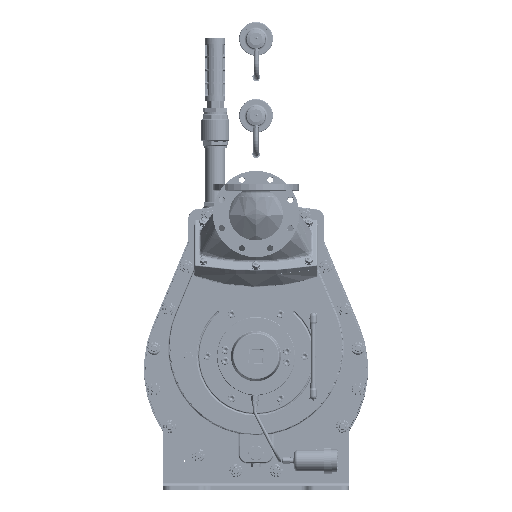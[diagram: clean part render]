
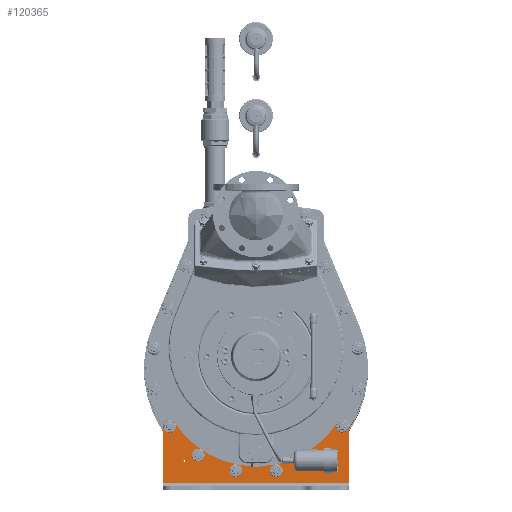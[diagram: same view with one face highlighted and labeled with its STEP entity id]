
A CAD part, top view. The second image highlights one B-rep face of the part: STEP entity #120365.
In plain terms, the highlighted planar face has unit normal (0, 0, 1) as drawn and (1, 0, 0) by its records, which use the part's own axes.
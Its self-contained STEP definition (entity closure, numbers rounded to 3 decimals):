
#13996=FACE_BOUND('',#24638,.T.);
#13997=FACE_BOUND('',#24639,.T.);
#13998=FACE_BOUND('',#24640,.T.);
#13999=FACE_BOUND('',#24641,.T.);
#14000=FACE_BOUND('',#24642,.T.);
#14001=FACE_BOUND('',#24643,.T.);
#14002=FACE_BOUND('',#24644,.T.);
#14003=FACE_BOUND('',#24645,.T.);
#14905=PLANE('',#129188);
#17508=FACE_OUTER_BOUND('',#24637,.T.);
#24637=EDGE_LOOP('',(#82101,#82102,#82103,#82104,#82105,#82106,#82107,#82108,
#82109,#82110));
#24638=EDGE_LOOP('',(#82111));
#24639=EDGE_LOOP('',(#82112));
#24640=EDGE_LOOP('',(#82113));
#24641=EDGE_LOOP('',(#82114));
#24642=EDGE_LOOP('',(#82115));
#24643=EDGE_LOOP('',(#82116));
#24644=EDGE_LOOP('',(#82117));
#24645=EDGE_LOOP('',(#82118));
#32674=LINE('',#167253,#40296);
#32676=LINE('',#167259,#40298);
#32677=LINE('',#167263,#40299);
#32678=LINE('',#167271,#40300);
#32679=LINE('',#167274,#40301);
#40296=VECTOR('',#139338,10.);
#40298=VECTOR('',#139344,10.);
#40299=VECTOR('',#139347,10.);
#40300=VECTOR('',#139354,10.);
#40301=VECTOR('',#139357,10.);
#47920=CIRCLE('',#129189,15.);
#47921=CIRCLE('',#129190,15.);
#47922=CIRCLE('',#129191,231.);
#47923=CIRCLE('',#129192,15.);
#47924=CIRCLE('',#129193,15.);
#47925=CIRCLE('',#129194,2.067);
#47926=CIRCLE('',#129195,2.067);
#47927=CIRCLE('',#129196,9.);
#47928=CIRCLE('',#129197,9.);
#47929=CIRCLE('',#129198,9.);
#47930=CIRCLE('',#129199,9.);
#47931=CIRCLE('',#129200,9.);
#47932=CIRCLE('',#129201,9.);
#52166=VERTEX_POINT('',#167250);
#52167=VERTEX_POINT('',#167252);
#52169=VERTEX_POINT('',#167258);
#52170=VERTEX_POINT('',#167260);
#52171=VERTEX_POINT('',#167262);
#52172=VERTEX_POINT('',#167264);
#52173=VERTEX_POINT('',#167266);
#52174=VERTEX_POINT('',#167268);
#52175=VERTEX_POINT('',#167270);
#52176=VERTEX_POINT('',#167272);
#52177=VERTEX_POINT('',#167275);
#52178=VERTEX_POINT('',#167277);
#52179=VERTEX_POINT('',#167279);
#52180=VERTEX_POINT('',#167281);
#52181=VERTEX_POINT('',#167283);
#52182=VERTEX_POINT('',#167285);
#52183=VERTEX_POINT('',#167287);
#52184=VERTEX_POINT('',#167289);
#63893=EDGE_CURVE('',#52166,#52167,#32674,.T.);
#63896=EDGE_CURVE('',#52169,#52166,#32676,.T.);
#63897=EDGE_CURVE('',#52170,#52169,#47920,.T.);
#63898=EDGE_CURVE('',#52171,#52170,#32677,.T.);
#63899=EDGE_CURVE('',#52172,#52171,#47921,.T.);
#63900=EDGE_CURVE('',#52172,#52173,#47922,.T.);
#63901=EDGE_CURVE('',#52174,#52173,#47923,.T.);
#63902=EDGE_CURVE('',#52175,#52174,#32678,.T.);
#63903=EDGE_CURVE('',#52176,#52175,#47924,.T.);
#63904=EDGE_CURVE('',#52167,#52176,#32679,.T.);
#63905=EDGE_CURVE('',#52177,#52177,#47925,.T.);
#63906=EDGE_CURVE('',#52178,#52178,#47926,.T.);
#63907=EDGE_CURVE('',#52179,#52179,#47927,.T.);
#63908=EDGE_CURVE('',#52180,#52180,#47928,.T.);
#63909=EDGE_CURVE('',#52181,#52181,#47929,.T.);
#63910=EDGE_CURVE('',#52182,#52182,#47930,.T.);
#63911=EDGE_CURVE('',#52183,#52183,#47931,.T.);
#63912=EDGE_CURVE('',#52184,#52184,#47932,.T.);
#82101=ORIENTED_EDGE('',*,*,#63893,.F.);
#82102=ORIENTED_EDGE('',*,*,#63896,.F.);
#82103=ORIENTED_EDGE('',*,*,#63897,.F.);
#82104=ORIENTED_EDGE('',*,*,#63898,.F.);
#82105=ORIENTED_EDGE('',*,*,#63899,.F.);
#82106=ORIENTED_EDGE('',*,*,#63900,.T.);
#82107=ORIENTED_EDGE('',*,*,#63901,.F.);
#82108=ORIENTED_EDGE('',*,*,#63902,.F.);
#82109=ORIENTED_EDGE('',*,*,#63903,.F.);
#82110=ORIENTED_EDGE('',*,*,#63904,.F.);
#82111=ORIENTED_EDGE('',*,*,#63905,.T.);
#82112=ORIENTED_EDGE('',*,*,#63906,.T.);
#82113=ORIENTED_EDGE('',*,*,#63907,.T.);
#82114=ORIENTED_EDGE('',*,*,#63908,.T.);
#82115=ORIENTED_EDGE('',*,*,#63909,.T.);
#82116=ORIENTED_EDGE('',*,*,#63910,.T.);
#82117=ORIENTED_EDGE('',*,*,#63911,.T.);
#82118=ORIENTED_EDGE('',*,*,#63912,.T.);
#120365=ADVANCED_FACE('',(#17508,#13996,#13997,#13998,#13999,#14000,#14001,
#14002,#14003),#14905,.T.);
#129188=AXIS2_PLACEMENT_3D('',#167257,#139342,#139343);
#129189=AXIS2_PLACEMENT_3D('',#167261,#139345,#139346);
#129190=AXIS2_PLACEMENT_3D('',#167265,#139348,#139349);
#129191=AXIS2_PLACEMENT_3D('',#167267,#139350,#139351);
#129192=AXIS2_PLACEMENT_3D('',#167269,#139352,#139353);
#129193=AXIS2_PLACEMENT_3D('',#167273,#139355,#139356);
#129194=AXIS2_PLACEMENT_3D('',#167276,#139358,#139359);
#129195=AXIS2_PLACEMENT_3D('',#167278,#139360,#139361);
#129196=AXIS2_PLACEMENT_3D('',#167280,#139362,#139363);
#129197=AXIS2_PLACEMENT_3D('',#167282,#139364,#139365);
#129198=AXIS2_PLACEMENT_3D('',#167284,#139366,#139367);
#129199=AXIS2_PLACEMENT_3D('',#167286,#139368,#139369);
#129200=AXIS2_PLACEMENT_3D('',#167288,#139370,#139371);
#129201=AXIS2_PLACEMENT_3D('',#167290,#139372,#139373);
#139338=DIRECTION('',(0.,0.,1.));
#139342=DIRECTION('center_axis',(1.,0.,0.));
#139343=DIRECTION('ref_axis',(0.,0.,-1.));
#139344=DIRECTION('',(0.,-1.,0.));
#139345=DIRECTION('center_axis',(-1.,0.,0.));
#139346=DIRECTION('ref_axis',(0.,0.707,-0.707));
#139347=DIRECTION('',(0.,0.,-1.));
#139348=DIRECTION('center_axis',(-1.,0.,0.));
#139349=DIRECTION('ref_axis',(0.,0.881,0.473));
#139350=DIRECTION('center_axis',(-1.,0.,0.));
#139351=DIRECTION('ref_axis',(0.,0.,-1.));
#139352=DIRECTION('center_axis',(-1.,0.,0.));
#139353=DIRECTION('ref_axis',(0.,0.881,-0.473));
#139354=DIRECTION('',(0.,0.,-1.));
#139355=DIRECTION('center_axis',(-1.,0.,0.));
#139356=DIRECTION('ref_axis',(0.,0.707,0.707));
#139357=DIRECTION('',(0.,1.,0.));
#139358=DIRECTION('center_axis',(-1.,0.,0.));
#139359=DIRECTION('ref_axis',(0.,0.,
-1.));
#139360=DIRECTION('center_axis',(-1.,0.,0.));
#139361=DIRECTION('ref_axis',(0.,0.,
-1.));
#139362=DIRECTION('center_axis',(-1.,0.,0.));
#139363=DIRECTION('ref_axis',(0.,0.,-1.));
#139364=DIRECTION('center_axis',(-1.,0.,0.));
#139365=DIRECTION('ref_axis',(0.,0.,-1.));
#139366=DIRECTION('center_axis',(-1.,0.,0.));
#139367=DIRECTION('ref_axis',(0.,0.,-1.));
#139368=DIRECTION('center_axis',(-1.,0.,0.));
#139369=DIRECTION('ref_axis',(0.,0.,-1.));
#139370=DIRECTION('center_axis',(-1.,0.,0.));
#139371=DIRECTION('ref_axis',(0.,0.,-1.));
#139372=DIRECTION('center_axis',(-1.,0.,0.));
#139373=DIRECTION('ref_axis',(0.,0.,-1.));
#167250=CARTESIAN_POINT('',(8.,16.,-220.));
#167252=CARTESIAN_POINT('',(8.,16.,220.));
#167253=CARTESIAN_POINT('',(8.,16.,0.));
#167257=CARTESIAN_POINT('Origin',(8.,58.,0.));
#167258=CARTESIAN_POINT('',(8.,150.,-220.));
#167259=CARTESIAN_POINT('',(8.,0.,-220.));
#167260=CARTESIAN_POINT('',(8.,165.,-205.));
#167261=CARTESIAN_POINT('Origin',(8.,150.,-205.));
#167262=CARTESIAN_POINT('',(8.,165.,-204.988));
#167263=CARTESIAN_POINT('',(8.,165.,-220.));
#167264=CARTESIAN_POINT('',(8.,158.293,-192.489));
#167265=CARTESIAN_POINT('Origin',(8.,150.,-204.988));
#167266=CARTESIAN_POINT('',(8.,158.293,192.489));
#167267=CARTESIAN_POINT('Origin',(8.,286.,0.));
#167268=CARTESIAN_POINT('',(8.,165.,204.988));
#167269=CARTESIAN_POINT('Origin',(8.,150.,204.988));
#167270=CARTESIAN_POINT('',(8.,165.,205.));
#167271=CARTESIAN_POINT('',(8.,165.,-220.));
#167272=CARTESIAN_POINT('',(8.,150.,220.));
#167273=CARTESIAN_POINT('Origin',(8.,150.,205.));
#167274=CARTESIAN_POINT('',(8.,165.,220.));
#167275=CARTESIAN_POINT('',(8.,68.,-167.933));
#167276=CARTESIAN_POINT('Origin',(8.,68.,-170.));
#167277=CARTESIAN_POINT('',(8.,68.,172.067));
#167278=CARTESIAN_POINT('Origin',(8.,68.,170.));
#167279=CARTESIAN_POINT('',(8.,149.33,213.542));
#167280=CARTESIAN_POINT('Origin',(8.,149.33,204.542));
#167281=CARTESIAN_POINT('',(8.,44.727,56.992));
#167282=CARTESIAN_POINT('Origin',(8.,44.727,47.992));
#167283=CARTESIAN_POINT('',(8.,81.458,-127.67));
#167284=CARTESIAN_POINT('Origin',(8.,81.458,-136.67));
#167285=CARTESIAN_POINT('',(8.,149.33,-195.542));
#167286=CARTESIAN_POINT('Origin',(8.,149.33,-204.542));
#167287=CARTESIAN_POINT('',(8.,44.727,-38.992));
#167288=CARTESIAN_POINT('Origin',(8.,44.727,-47.992));
#167289=CARTESIAN_POINT('',(8.,81.458,145.67));
#167290=CARTESIAN_POINT('Origin',(8.,81.458,136.67));
